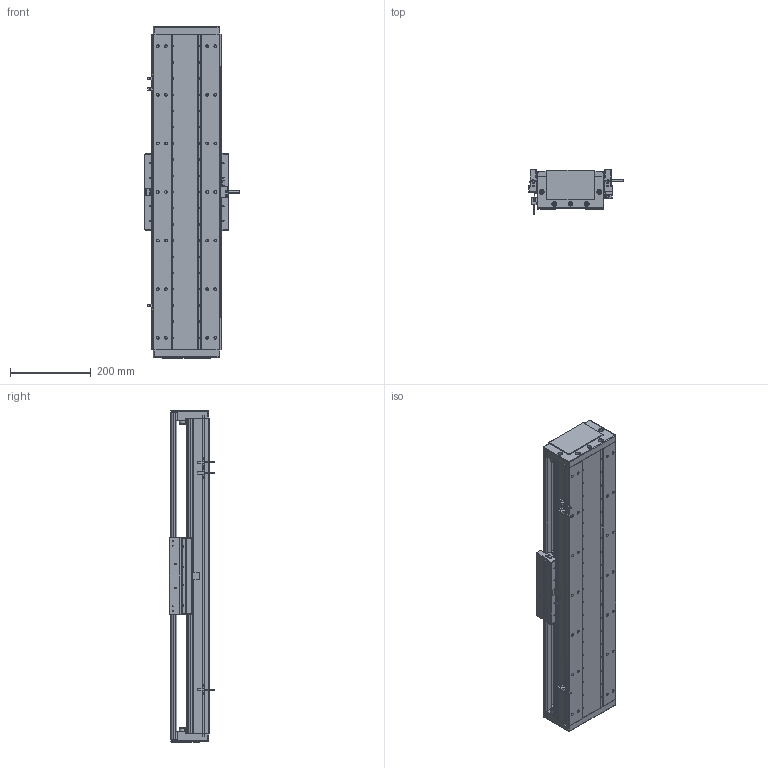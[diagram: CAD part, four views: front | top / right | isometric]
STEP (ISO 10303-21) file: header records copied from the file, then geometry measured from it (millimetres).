
FILE_DESCRIPTION (( 'STEP AP203' ), '1' );
FILE_NAME ('DA-C165-C2-T540-C010-0.2 直线电机.STEP', '2023-05-11T07:29:54', ( '微软用户' ), ( '微软中国' ), 'SwSTEP 2.0', 'SolidWorks 2019', '' );
FILE_SCHEMA (( 'CONFIG_CONTROL_DESIGN' ));
Length unit declared in the file: millimetre
Products named in the file (15): 复件 DA165-GYP-00 光电感应片^DA-C165-C2-T-C010-0.2-N 直线电机; IU-CU165-L 菁釱絳寢; 复件 XD-U-02L 磁栅尺^DA-C165-C2-T-C010-0.2-N 直线电机_T; 珨极趙賑雄怢啣wf-C2; 复件 DA165-T-002-00 盖板^DA-C165-C2-T-C010-0.2-N 直线电机_0840-002-00; 葩璃 PM-T45^DA-C165-C2-T-C010-0.2-N 眻盄萇儂; 葩璃 DA95-GT-T-00^IU-CU165-L 菁釱絳寢_T; 复件 DMA-010-0.2 读数头^DA-C165-C2-T-C010-0.2-N 直线电机; 复件 CKM02-W075-C1C2-TP-3.0 一体电机-C2^DA-C165-C2-T-C010-0.2-N 直线电机; 复件 DA95-HXJ-00 缓冲橡胶^DA-C165-C2-T-C010-0.2-N 直线电机; IU-CU165-L-00 菁釱_L780; 复件 DA165-DG-H-N-00 端盖^DA-C165-C2-T-C010-0.2-N 直线电机; 复件 六角薄螺母 M3^DA-C165-C2-T-C010-0.2-N 直线电机_GB_FASTENER_NUT_STNAB M3-C; 葩璃 CKM01-W075-TRL^DA-C165-C2-T-C010-0.2-N 眻盄萇儂; DA-C165-C2-T540-C010-0.2 眻盄萇儂
Assembly tree (28 placements, depth 3):
  DA-C165-C2-T540-C010-0.2 眻盄萇儂
    IU-CU165-L 菁釱絳寢
      IU-CU165-L-00 菁釱_L780
      葩璃 DA95-GT-T-00^IU-CU165-L 菁釱絳寢_T  x4
    复件 DA165-DG-H-N-00 端盖^DA-C165-C2-T-C010-0.2-N 直线电机  x2
    复件 DA95-HXJ-00 缓冲橡胶^DA-C165-C2-T-C010-0.2-N 直线电机  x4
    复件 DA165-T-002-00 盖板^DA-C165-C2-T-C010-0.2-N 直线电机_0840-002-00
    复件 XD-U-02L 磁栅尺^DA-C165-C2-T-C010-0.2-N 直线电机_T
    葩璃 PM-T45^DA-C165-C2-T-C010-0.2-N 眻盄萇儂  x3
    葩璃 CKM01-W075-TRL^DA-C165-C2-T-C010-0.2-N 眻盄萇儂
    复件 DA165-GYP-00 光电感应片^DA-C165-C2-T-C010-0.2-N 直线电机
    复件 DMA-010-0.2 读数头^DA-C165-C2-T-C010-0.2-N 直线电机
    复件 CKM02-W075-C1C2-TP-3.0 一体电机-C2^DA-C165-C2-T-C010-0.2-N 直线电机
    复件 六角薄螺母 M3^DA-C165-C2-T-C010-0.2-N 直线电机_GB_FASTENER_NUT_STNAB M3-C  x6
    珨极趙賑雄怢啣wf-C2
Bounding box: 233 x 111.45 x 820 mm (x, y, z)
Volume: 6451486.2 mm3; surface area: 1713915.5 mm2
Topology: 66 solids, 66 shells, 2964 faces, 8014 edges, 5011 vertices
Faces by surface type: cylinder 1447, plane 1053, cone 406, torus 54, sphere 4
Entity records: 87005 total; most frequent: CARTESIAN_POINT 19592, DIRECTION 13952, ORIENTED_EDGE 13502, EDGE_CURVE 6751, AXIS2_PLACEMENT_3D 5219, VERTEX_POINT 4347, VECTOR 3514, LINE 3514
